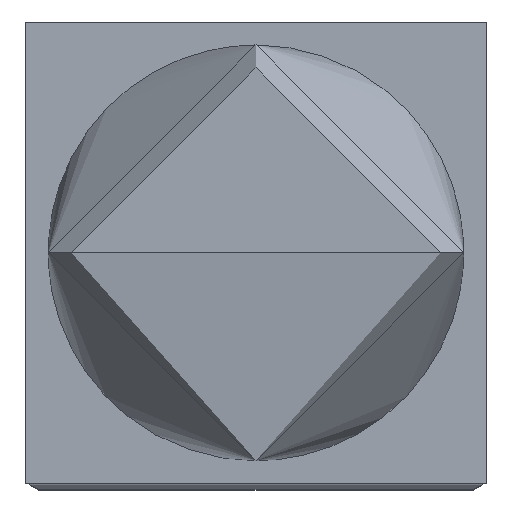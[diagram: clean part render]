
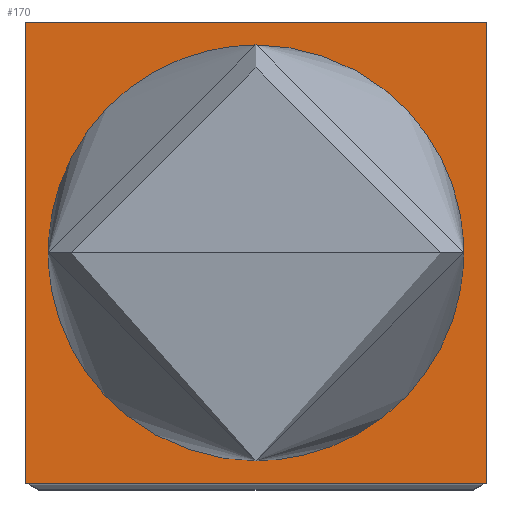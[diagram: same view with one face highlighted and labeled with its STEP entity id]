
A CAD part, top view. The second image highlights one B-rep face of the part: STEP entity #170.
In plain terms, the highlighted planar face has unit normal (0, 0, 1).
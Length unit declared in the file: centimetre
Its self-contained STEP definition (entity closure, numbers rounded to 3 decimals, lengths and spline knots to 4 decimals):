
#13=FACE_BOUND('',#314,.T.);
#42=B_SPLINE_CURVE_WITH_KNOTS('',1,(#1880,#1881),.UNSPECIFIED.,.F.,.F.,
(2,2),(-71.25,23.75),.UNSPECIFIED.);
#43=B_SPLINE_CURVE_WITH_KNOTS('',1,(#1882,#1883),.UNSPECIFIED.,.F.,.F.,
(2,2),(-71.25,23.75),.UNSPECIFIED.);
#44=B_SPLINE_CURVE_WITH_KNOTS('',1,(#1884,#1885),.UNSPECIFIED.,.F.,.F.,
(2,2),(-71.25,23.75),.UNSPECIFIED.);
#45=B_SPLINE_CURVE_WITH_KNOTS('',1,(#1886,#1887),.UNSPECIFIED.,.F.,.F.,
(2,2),(-71.25,23.75),.UNSPECIFIED.);
#170=ADVANCED_FACE('',(#241,#13),#1002,.T.);
#241=FACE_OUTER_BOUND('',#313,.T.);
#313=EDGE_LOOP('',(#478,#479,#480,#481));
#314=EDGE_LOOP('',(#482,#483));
#478=ORIENTED_EDGE('',*,*,#722,.F.);
#479=ORIENTED_EDGE('',*,*,#723,.F.);
#480=ORIENTED_EDGE('',*,*,#724,.F.);
#481=ORIENTED_EDGE('',*,*,#725,.F.);
#482=ORIENTED_EDGE('',*,*,#720,.F.);
#483=ORIENTED_EDGE('',*,*,#717,.F.);
#717=EDGE_CURVE('',#927,#925,#858,.T.);
#720=EDGE_CURVE('',#925,#927,#860,.T.);
#722=EDGE_CURVE('',#928,#929,#42,.T.);
#723=EDGE_CURVE('',#930,#928,#43,.T.);
#724=EDGE_CURVE('',#931,#930,#44,.T.);
#725=EDGE_CURVE('',#929,#931,#45,.T.);
#858=(
BOUNDED_CURVE()
B_SPLINE_CURVE(2,(#1858,#1859,#1860,#1861,#1862),.UNSPECIFIED.,.F.,.F.)
B_SPLINE_CURVE_WITH_KNOTS((3,2,3),(32.9867,41.2334,49.4801),
 .UNSPECIFIED.)
CURVE()
GEOMETRIC_REPRESENTATION_ITEM()
RATIONAL_B_SPLINE_CURVE((1.,0.707,1.,0.707,1.))
REPRESENTATION_ITEM('')
);
#860=(
BOUNDED_CURVE()
B_SPLINE_CURVE(2,(#1870,#1871,#1872,#1873,#1874),.UNSPECIFIED.,.F.,.F.)
B_SPLINE_CURVE_WITH_KNOTS((3,2,3),(16.4934,24.74,32.9867),
 .UNSPECIFIED.)
CURVE()
GEOMETRIC_REPRESENTATION_ITEM()
RATIONAL_B_SPLINE_CURVE((1.,0.707,1.,0.707,1.))
REPRESENTATION_ITEM('')
);
#925=VERTEX_POINT('',#1846);
#927=VERTEX_POINT('',#1848);
#928=VERTEX_POINT('',#1849);
#929=VERTEX_POINT('',#1850);
#930=VERTEX_POINT('',#1851);
#931=VERTEX_POINT('',#1852);
#1002=PLANE('',#1166);
#1166=AXIS2_PLACEMENT_3D('',#1839,#1236,$);
#1236=DIRECTION('',(0.,0.,1.));
#1839=CARTESIAN_POINT('',(531.8869,646.9197,789.6729));
#1846=CARTESIAN_POINT('',(576.6469,596.9097,789.6729));
#1848=CARTESIAN_POINT('',(587.1469,596.9097,789.6729));
#1849=CARTESIAN_POINT('',(631.8969,646.9097,789.6729));
#1850=CARTESIAN_POINT('',(631.8969,546.9097,789.6729));
#1851=CARTESIAN_POINT('',(531.8969,646.9097,789.6729));
#1852=CARTESIAN_POINT('',(531.8969,546.9097,789.6729));
#1858=CARTESIAN_POINT('',(587.1469,596.9097,789.6729));
#1859=CARTESIAN_POINT('',(587.1469,602.1597,789.6729));
#1860=CARTESIAN_POINT('',(581.8969,602.1597,789.6729));
#1861=CARTESIAN_POINT('',(576.6469,602.1597,789.6729));
#1862=CARTESIAN_POINT('',(576.6469,596.9097,789.6729));
#1870=CARTESIAN_POINT('',(576.6469,596.9097,789.6729));
#1871=CARTESIAN_POINT('',(576.6469,591.6597,789.6729));
#1872=CARTESIAN_POINT('',(581.8969,591.6597,789.6729));
#1873=CARTESIAN_POINT('',(587.1469,591.6597,789.6729));
#1874=CARTESIAN_POINT('',(587.1469,596.9097,789.6729));
#1880=CARTESIAN_POINT('',(631.8969,646.9097,789.6729));
#1881=CARTESIAN_POINT('',(631.8969,546.9097,789.6729));
#1882=CARTESIAN_POINT('',(531.8969,646.9097,789.6729));
#1883=CARTESIAN_POINT('',(631.8969,646.9097,789.6729));
#1884=CARTESIAN_POINT('',(531.8969,546.9097,789.6729));
#1885=CARTESIAN_POINT('',(531.8969,646.9097,789.6729));
#1886=CARTESIAN_POINT('',(631.8969,546.9097,789.6729));
#1887=CARTESIAN_POINT('',(531.8969,546.9097,789.6729));
